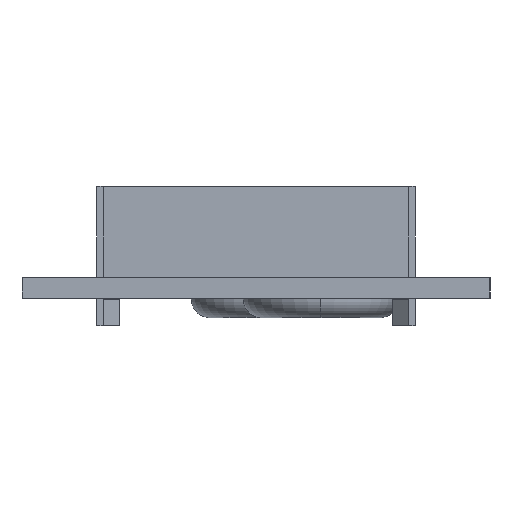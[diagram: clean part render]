
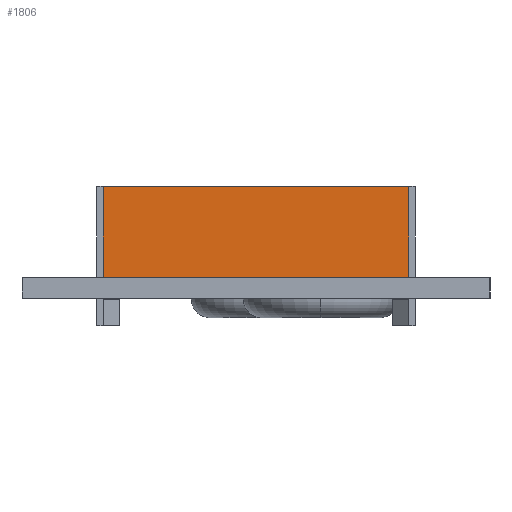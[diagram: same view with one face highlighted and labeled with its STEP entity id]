
A CAD part, left-side view. The second image highlights one B-rep face of the part: STEP entity #1806.
In plain terms, the highlighted planar face has unit normal (-1, 0, 0).
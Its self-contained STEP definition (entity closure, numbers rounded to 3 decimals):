
#312 = VERTEX_POINT ( 'NONE', #6054 ) ;
#713 = EDGE_CURVE ( 'NONE', #4986, #13688, #9356, .T. ) ;
#1258 = CARTESIAN_POINT ( 'NONE',  ( -35.6, 11.75, 1.6 ) ) ;
#1275 = CARTESIAN_POINT ( 'NONE',  ( -35.6, 11.75, 8.6 ) ) ;
#1788 = ORIENTED_EDGE ( 'NONE', *, *, #713, .F. ) ;
#1806 = ADVANCED_FACE ( 'NONE', ( #6292 ), #6318, .F. ) ;
#2220 = VERTEX_POINT ( 'NONE', #1275 ) ;
#2290 = DIRECTION ( 'NONE',  ( 0., -1., 0. ) ) ;
#2672 = DIRECTION ( 'NONE',  ( 0., 0., -1. ) ) ;
#2907 = CARTESIAN_POINT ( 'NONE',  ( -35.6, -11.75, 8.6 ) ) ;
#3032 = ORIENTED_EDGE ( 'NONE', *, *, #10088, .T. ) ;
#3034 = EDGE_CURVE ( 'NONE', #2220, #4986, #9413, .T. ) ;
#4210 = DIRECTION ( 'NONE',  ( 1., 0., 0. ) ) ;
#4986 = VERTEX_POINT ( 'NONE', #2907 ) ;
#5110 = CARTESIAN_POINT ( 'NONE',  ( -35.6, 11.75, 8.6 ) ) ;
#5221 = LINE ( 'NONE', #5110, #7767 ) ;
#5473 = EDGE_CURVE ( 'NONE', #2220, #312, #5221, .T. ) ;
#6054 = CARTESIAN_POINT ( 'NONE',  ( -35.6, 11.75, 1.6 ) ) ;
#6154 = DIRECTION ( 'NONE',  ( 0., 0., -1. ) ) ;
#6198 = VECTOR ( 'NONE', #2290, 1000. ) ;
#6292 = FACE_OUTER_BOUND ( 'NONE', #13446, .T. ) ;
#6318 = PLANE ( 'NONE',  #9696 ) ;
#6838 = VECTOR ( 'NONE', #2672, 1000. ) ;
#7767 = VECTOR ( 'NONE', #6154, 1000. ) ;
#8057 = ORIENTED_EDGE ( 'NONE', *, *, #3034, .F. ) ;
#8431 = VECTOR ( 'NONE', #10948, 1000. ) ;
#8719 = CARTESIAN_POINT ( 'NONE',  ( -35.6, 11.75, 8.6 ) ) ;
#9356 = LINE ( 'NONE', #13474, #6838 ) ;
#9413 = LINE ( 'NONE', #8719, #6198 ) ;
#9696 = AXIS2_PLACEMENT_3D ( 'NONE', #10678, #4210, #11753 ) ;
#9998 = CARTESIAN_POINT ( 'NONE',  ( -35.6, -11.75, 1.6 ) ) ;
#10088 = EDGE_CURVE ( 'NONE', #312, #13688, #11300, .T. ) ;
#10678 = CARTESIAN_POINT ( 'NONE',  ( -35.6, 11.75, 8.6 ) ) ;
#10820 = ORIENTED_EDGE ( 'NONE', *, *, #5473, .T. ) ;
#10948 = DIRECTION ( 'NONE',  ( 0., -1., 0. ) ) ;
#11300 = LINE ( 'NONE', #1258, #8431 ) ;
#11753 = DIRECTION ( 'NONE',  ( 0., 0., -1. ) ) ;
#13446 = EDGE_LOOP ( 'NONE', ( #3032, #1788, #8057, #10820 ) ) ;
#13474 = CARTESIAN_POINT ( 'NONE',  ( -35.6, -11.75, 8.6 ) ) ;
#13688 = VERTEX_POINT ( 'NONE', #9998 ) ;
